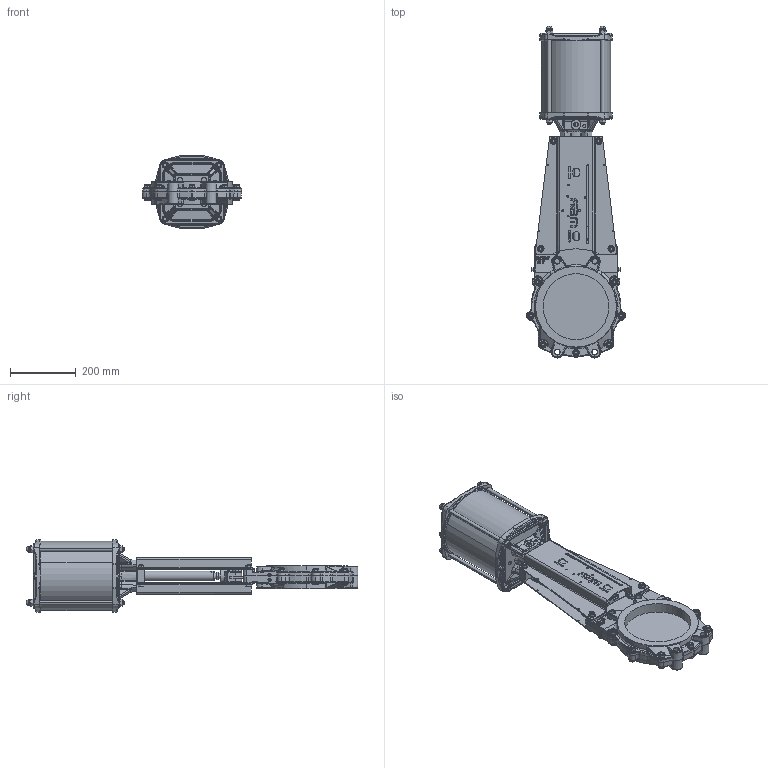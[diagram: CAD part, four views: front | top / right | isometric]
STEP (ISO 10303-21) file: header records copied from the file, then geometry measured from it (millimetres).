
FILE_DESCRIPTION (( 'STEP AP214' ), '1' );
FILE_NAME ('VSC DN 0200 Zyl.-Reihe 2.STEP', '2015-09-23T11:08:39', ( 'admin' ), ( 'Hewlett-Packard Company' ), 'SwSTEP 2.0', 'SolidWorks 2013', '' );
FILE_SCHEMA (( 'AUTOMOTIVE_DESIGN' ));
Length unit declared in the file: millimetre
Products named in the file (1): VSC DN 0200 Zyl.-Reihe 2
Bounding box: 301 x 1007.32 x 220 mm (x, y, z)
Volume: 6751652 mm3; surface area: 1420788.3 mm2
Topology: 75 solids, 78 shells, 3975 faces, 9457 edges, 5571 vertices
Faces by surface type: plane 1188, cylinder 967, cone 778, bspline 750, torus 216, sphere 76
Entity records: 185142 total; most frequent: CARTESIAN_POINT 55127, ORIENTED_EDGE 18554, DIRECTION 16849, EDGE_CURVE 9277, AXIS2_PLACEMENT_3D 6751, VERTEX_POINT 5563, EDGE_LOOP 4318, UNCERTAINTY_MEASURE_WITH_UNIT 4052
